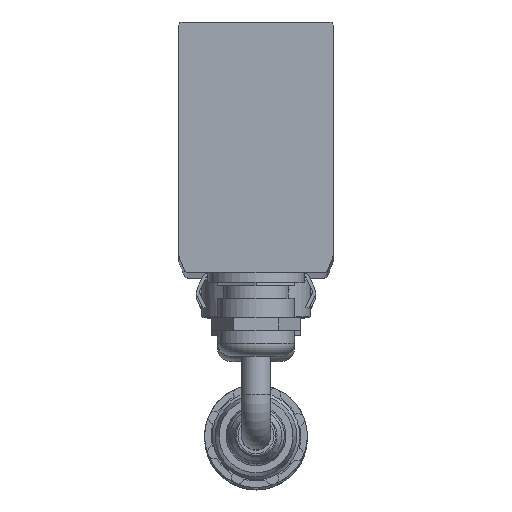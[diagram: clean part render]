
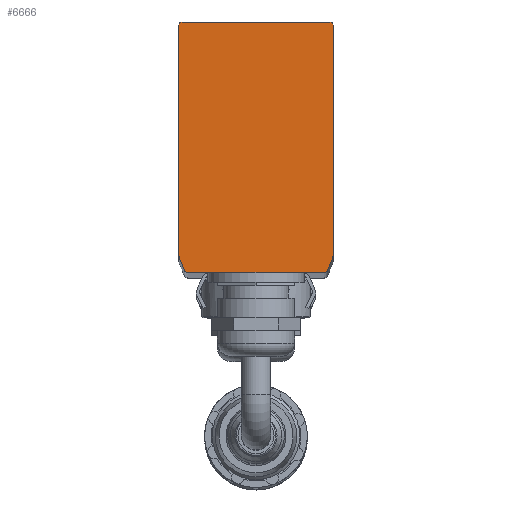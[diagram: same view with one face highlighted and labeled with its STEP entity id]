
A CAD part, top view. The second image highlights one B-rep face of the part: STEP entity #6666.
In plain terms, the highlighted planar face has unit normal (0, 0, 1).
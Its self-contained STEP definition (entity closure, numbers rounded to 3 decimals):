
#265=CIRCLE('',#6684,0.5);
#267=CIRCLE('',#6687,0.5);
#271=CIRCLE('',#6693,0.5);
#273=CIRCLE('',#6697,0.5);
#275=CIRCLE('',#6701,0.5);
#277=CIRCLE('',#6704,0.5);
#2661=ORIENTED_EDGE('',*,*,#2727,.T.);
#2662=ORIENTED_EDGE('',*,*,#2733,.T.);
#2663=ORIENTED_EDGE('',*,*,#2735,.T.);
#2664=ORIENTED_EDGE('',*,*,#2729,.T.);
#2665=ORIENTED_EDGE('',*,*,#2690,.T.);
#2666=ORIENTED_EDGE('',*,*,#2697,.T.);
#2667=ORIENTED_EDGE('',*,*,#2704,.T.);
#2668=ORIENTED_EDGE('',*,*,#2693,.T.);
#2669=ORIENTED_EDGE('',*,*,#2686,.T.);
#2670=ORIENTED_EDGE('',*,*,#2718,.T.);
#2671=ORIENTED_EDGE('',*,*,#2721,.T.);
#2672=ORIENTED_EDGE('',*,*,#2724,.T.);
#2686=EDGE_CURVE('',#3637,#3636,#4276,.T.);
#2690=EDGE_CURVE('',#3641,#3640,#4280,.T.);
#2693=EDGE_CURVE('',#3643,#3637,#265,.T.);
#2697=EDGE_CURVE('',#3640,#3646,#267,.T.);
#2704=EDGE_CURVE('',#3646,#3643,#4289,.T.);
#2718=EDGE_CURVE('',#3636,#3664,#271,.T.);
#2721=EDGE_CURVE('',#3664,#3666,#4303,.T.);
#2724=EDGE_CURVE('',#3666,#3668,#273,.T.);
#2727=EDGE_CURVE('',#3668,#3670,#4307,.T.);
#2729=EDGE_CURVE('',#3671,#3641,#275,.T.);
#2733=EDGE_CURVE('',#3670,#3674,#277,.T.);
#2735=EDGE_CURVE('',#3674,#3671,#4311,.T.);
#3636=VERTEX_POINT('',#9601);
#3637=VERTEX_POINT('',#9603);
#3640=VERTEX_POINT('',#9610);
#3641=VERTEX_POINT('',#9612);
#3643=VERTEX_POINT('',#9618);
#3646=VERTEX_POINT('',#9625);
#3664=VERTEX_POINT('',#9666);
#3666=VERTEX_POINT('',#9672);
#3668=VERTEX_POINT('',#9678);
#3670=VERTEX_POINT('',#9684);
#3671=VERTEX_POINT('',#9689);
#3674=VERTEX_POINT('',#9696);
#4276=LINE('',#9602,#4664);
#4280=LINE('',#9611,#4668);
#4289=LINE('',#9639,#4677);
#4303=LINE('',#9673,#4691);
#4307=LINE('',#9685,#4695);
#4311=LINE('',#9700,#4699);
#4664=VECTOR('',#7528,1000.);
#4668=VECTOR('',#7534,1000.);
#4677=VECTOR('',#7559,1000.);
#4691=VECTOR('',#7583,1000.);
#4695=VECTOR('',#7595,1000.);
#4699=VECTOR('',#7613,1000.);
#5555=EDGE_LOOP('',(#2661,#2662,#2663,#2664,#2665,#2666,#2667,#2668,#2669,
#2670,#2671,#2672));
#6061=FACE_BOUND('',#5555,.T.);
#6262=PLANE('',#7521);
#6666=ADVANCED_FACE('',(#6061),#6262,.T.);
#6684=AXIS2_PLACEMENT_3D('',#9617,#7539,#7540);
#6687=AXIS2_PLACEMENT_3D('',#9626,#7547,#7548);
#6693=AXIS2_PLACEMENT_3D('',#9667,#7576,#7577);
#6697=AXIS2_PLACEMENT_3D('',#9679,#7588,#7589);
#6701=AXIS2_PLACEMENT_3D('',#9688,#7599,#7600);
#6704=AXIS2_PLACEMENT_3D('',#9697,#7607,#7608);
#7521=AXIS2_PLACEMENT_3D('',#11990,#9593,#9594);
#7528=DIRECTION('',(0.371,0.928,0.));
#7534=DIRECTION('',(0.371,-0.928,0.));
#7539=DIRECTION('',(0.,0.,1.));
#7540=DIRECTION('',(0.,-1.,0.));
#7547=DIRECTION('',(0.,0.,1.));
#7548=DIRECTION('',(-0.928,-0.371,0.));
#7559=DIRECTION('',(1.,0.,0.));
#7576=DIRECTION('',(0.,0.,1.));
#7577=DIRECTION('',(0.928,-0.371,0.));
#7583=DIRECTION('',(0.,1.,0.));
#7588=DIRECTION('',(0.,0.,1.));
#7589=DIRECTION('',(1.,0.,0.));
#7595=DIRECTION('',(-1.,0.,0.));
#7599=DIRECTION('',(0.,0.,1.));
#7600=DIRECTION('',(-1.,0.,0.));
#7607=DIRECTION('',(0.,0.,1.));
#7608=DIRECTION('',(0.,1.,0.));
#7613=DIRECTION('',(0.,-1.,0.));
#9593=DIRECTION('',(0.,0.,1.));
#9594=DIRECTION('',(1.,0.,0.));
#9601=CARTESIAN_POINT('',(11.964,37.901,255.85));
#9602=CARTESIAN_POINT('',(11.126,35.804,255.85));
#9603=CARTESIAN_POINT('',(11.126,35.804,255.85));
#9610=CARTESIAN_POINT('',(-11.126,35.804,255.85));
#9611=CARTESIAN_POINT('',(-11.964,37.901,255.85));
#9612=CARTESIAN_POINT('',(-11.964,37.901,255.85));
#9617=CARTESIAN_POINT('',(10.661,35.99,255.85));
#9618=CARTESIAN_POINT('',(10.661,35.49,255.85));
#9625=CARTESIAN_POINT('',(-10.661,35.49,255.85));
#9626=CARTESIAN_POINT('',(-10.661,35.99,255.85));
#9639=CARTESIAN_POINT('',(-10.661,35.49,255.85));
#9666=CARTESIAN_POINT('',(12.,38.086,255.85));
#9667=CARTESIAN_POINT('',(11.5,38.086,255.85));
#9672=CARTESIAN_POINT('',(12.,73.99,255.85));
#9673=CARTESIAN_POINT('',(12.,38.086,255.85));
#9678=CARTESIAN_POINT('',(11.5,74.49,255.85));
#9679=CARTESIAN_POINT('',(11.5,73.99,255.85));
#9684=CARTESIAN_POINT('',(-11.5,74.49,255.85));
#9685=CARTESIAN_POINT('',(11.5,74.49,255.85));
#9688=CARTESIAN_POINT('',(-11.5,38.086,255.85));
#9689=CARTESIAN_POINT('',(-12.,38.086,255.85));
#9696=CARTESIAN_POINT('',(-12.,73.99,255.85));
#9697=CARTESIAN_POINT('',(-11.5,73.99,255.85));
#9700=CARTESIAN_POINT('',(-12.,73.99,255.85));
#11990=CARTESIAN_POINT('',(0.,54.99,255.85));
